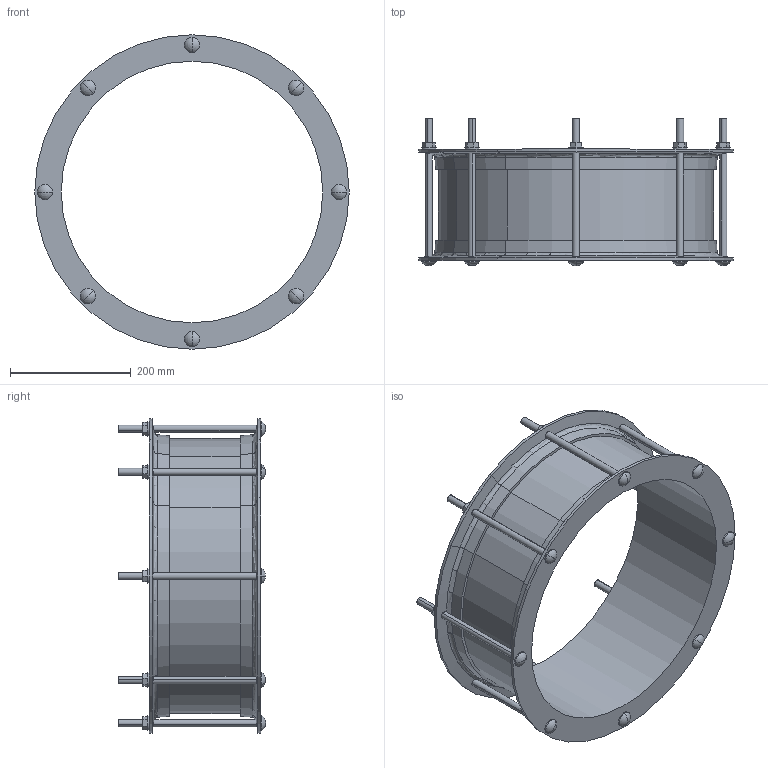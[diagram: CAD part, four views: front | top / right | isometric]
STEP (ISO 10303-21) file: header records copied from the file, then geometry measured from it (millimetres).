
FILE_DESCRIPTION((''),'2;1');
FILE_NAME('LO2_COUP_429','2018-12-06T',('mfairey'),('Glynwed Pipe Systems'),'CREO PARAMETRIC BY PTC INC, 2016130','CREO PARAMETRIC BY PTC INC, 2016130','');
FILE_SCHEMA(('CONFIG_CONTROL_DESIGN'));
Length unit declared in the file: millimetre
Products named in the file (1): LO2_COUP_429
Bounding box: 519.7 x 243.33 x 519.7 mm (x, y, z)
Volume: 4174157 mm3; surface area: 798330.4 mm2
Topology: 1 solids, 1 shells, 176 faces, 464 edges, 292 vertices
Faces by surface type: plane 76, cylinder 72, sphere 16, cone 8, torus 4
Entity records: 6046 total; most frequent: CARTESIAN_POINT 1684, DIRECTION 896, ORIENTED_EDGE 896, EDGE_CURVE 448, AXIS2_PLACEMENT_3D 336, VERTEX_POINT 292, VECTOR 224, LINE 224
